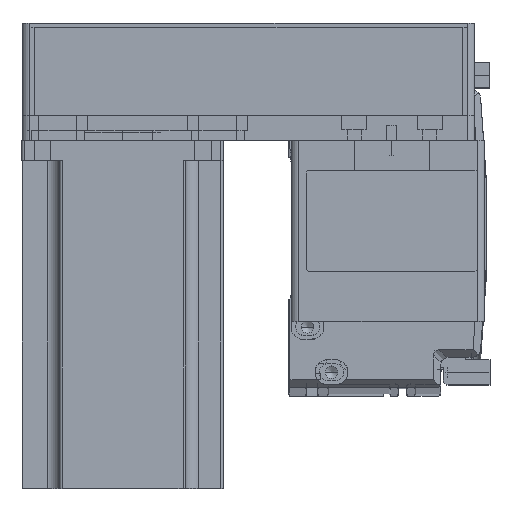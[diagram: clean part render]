
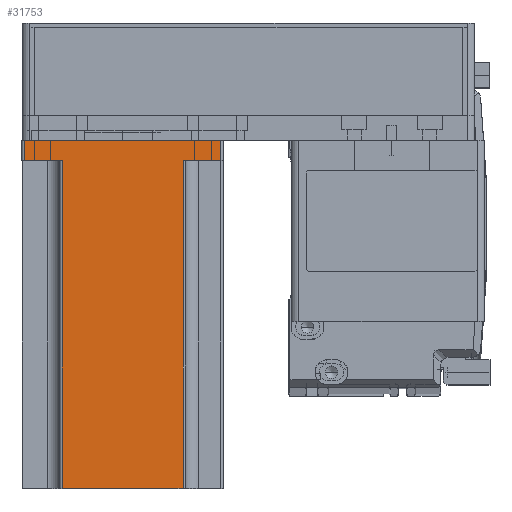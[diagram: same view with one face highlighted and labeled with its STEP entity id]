
A CAD part, top view. The second image highlights one B-rep face of the part: STEP entity #31753.
In plain terms, the highlighted planar face has unit normal (0, 0, 1) as drawn and (0, 1, 0) by its records, which use the part's own axes.
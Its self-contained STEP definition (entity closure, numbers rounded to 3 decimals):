
#1068 = LINE ( 'NONE', #58299, #13555 ) ;
#3240 = EDGE_CURVE ( 'NONE', #7296, #41955, #14706, .T. ) ;
#3581 = CARTESIAN_POINT ( 'NONE',  ( 40., 40., 138.3 ) ) ;
#4250 = VERTEX_POINT ( 'NONE', #19794 ) ;
#5304 = VECTOR ( 'NONE', #43268, 1000. ) ;
#5899 = CARTESIAN_POINT ( 'NONE',  ( 39., 40., 0. ) ) ;
#7296 = VERTEX_POINT ( 'NONE', #53317 ) ;
#7681 = ORIENTED_EDGE ( 'NONE', *, *, #10654, .T. ) ;
#8090 = EDGE_LOOP ( 'NONE', ( #26029, #52172, #59564, #7681, #50791, #59069, #13780, #60873 ) ) ;
#8345 = DIRECTION ( 'NONE',  ( 1., 0., 0. ) ) ;
#10654 = EDGE_CURVE ( 'NONE', #4250, #49467, #1068, .T. ) ;
#11311 = VECTOR ( 'NONE', #37694, 1000. ) ;
#13555 = VECTOR ( 'NONE', #34759, 1000. ) ;
#13780 = ORIENTED_EDGE ( 'NONE', *, *, #19563, .T. ) ;
#14303 = LINE ( 'NONE', #47206, #11311 ) ;
#14706 = LINE ( 'NONE', #57084, #60383 ) ;
#17269 = CARTESIAN_POINT ( 'NONE',  ( -24., 40., 138.3 ) ) ;
#19563 = EDGE_CURVE ( 'NONE', #41955, #20776, #23525, .T. ) ;
#19794 = CARTESIAN_POINT ( 'NONE',  ( 24., 40., 138.3 ) ) ;
#20776 = VERTEX_POINT ( 'NONE', #22793 ) ;
#21619 = EDGE_CURVE ( 'NONE', #4250, #56383, #58516, .T. ) ;
#22793 = CARTESIAN_POINT ( 'NONE',  ( -39., 40., 0. ) ) ;
#23525 = LINE ( 'NONE', #56377, #58175 ) ;
#25728 = EDGE_CURVE ( 'NONE', #52893, #48184, #29370, .T. ) ;
#26029 = ORIENTED_EDGE ( 'NONE', *, *, #25728, .T. ) ;
#26265 = CARTESIAN_POINT ( 'NONE',  ( -39., 40., 138.3 ) ) ;
#28839 = DIRECTION ( 'NONE',  ( 0., 0., -1. ) ) ;
#29032 = CARTESIAN_POINT ( 'NONE',  ( -24., 40., 138.3 ) ) ;
#29370 = LINE ( 'NONE', #37306, #52971 ) ;
#31753 = ADVANCED_FACE ( 'NONE', ( #51089 ), #55095, .F. ) ;
#31993 = VECTOR ( 'NONE', #55071, 1000. ) ;
#34759 = DIRECTION ( 'NONE',  ( 0., 0., -1. ) ) ;
#35093 = EDGE_CURVE ( 'NONE', #7296, #49467, #14303, .T. ) ;
#35678 = CARTESIAN_POINT ( 'NONE',  ( -24., 40., 8. ) ) ;
#36216 = CARTESIAN_POINT ( 'NONE',  ( 40., 40., 138.3 ) ) ;
#36444 = DIRECTION ( 'NONE',  ( 0., -1., 0. ) ) ;
#37306 = CARTESIAN_POINT ( 'NONE',  ( -25., 40., 8. ) ) ;
#37694 = DIRECTION ( 'NONE',  ( -1., 0., 0. ) ) ;
#39199 = CARTESIAN_POINT ( 'NONE',  ( -39., 40., 8. ) ) ;
#40984 = CARTESIAN_POINT ( 'NONE',  ( 24., 40., 8. ) ) ;
#41169 = VECTOR ( 'NONE', #49981, 1000. ) ;
#41381 = LINE ( 'NONE', #29032, #5304 ) ;
#41955 = VERTEX_POINT ( 'NONE', #5899 ) ;
#42655 = LINE ( 'NONE', #26265, #41169 ) ;
#43268 = DIRECTION ( 'NONE',  ( 0., 0., 1. ) ) ;
#43588 = AXIS2_PLACEMENT_3D ( 'NONE', #3581, #36444, #8345 ) ;
#46802 = DIRECTION ( 'NONE',  ( 1., 0., 0. ) ) ;
#46871 = DIRECTION ( 'NONE',  ( -1., 0., 0. ) ) ;
#47206 = CARTESIAN_POINT ( 'NONE',  ( 25., 40., 8. ) ) ;
#48184 = VERTEX_POINT ( 'NONE', #35678 ) ;
#49467 = VERTEX_POINT ( 'NONE', #40984 ) ;
#49981 = DIRECTION ( 'NONE',  ( 0., 0., 1. ) ) ;
#50791 = ORIENTED_EDGE ( 'NONE', *, *, #35093, .F. ) ;
#51089 = FACE_OUTER_BOUND ( 'NONE', #8090, .T. ) ;
#52172 = ORIENTED_EDGE ( 'NONE', *, *, #57712, .T. ) ;
#52893 = VERTEX_POINT ( 'NONE', #39199 ) ;
#52971 = VECTOR ( 'NONE', #46802, 1000. ) ;
#53317 = CARTESIAN_POINT ( 'NONE',  ( 39., 40., 8. ) ) ;
#53979 = EDGE_CURVE ( 'NONE', #20776, #52893, #42655, .T. ) ;
#55071 = DIRECTION ( 'NONE',  ( -1., 0., 0. ) ) ;
#55095 = PLANE ( 'NONE',  #43588 ) ;
#56377 = CARTESIAN_POINT ( 'NONE',  ( 40., 40., 0. ) ) ;
#56383 = VERTEX_POINT ( 'NONE', #17269 ) ;
#57084 = CARTESIAN_POINT ( 'NONE',  ( 39., 40., 138.3 ) ) ;
#57712 = EDGE_CURVE ( 'NONE', #48184, #56383, #41381, .T. ) ;
#58175 = VECTOR ( 'NONE', #46871, 1000. ) ;
#58299 = CARTESIAN_POINT ( 'NONE',  ( 24., 40., 138.3 ) ) ;
#58516 = LINE ( 'NONE', #36216, #31993 ) ;
#59069 = ORIENTED_EDGE ( 'NONE', *, *, #3240, .T. ) ;
#59564 = ORIENTED_EDGE ( 'NONE', *, *, #21619, .F. ) ;
#60383 = VECTOR ( 'NONE', #28839, 1000. ) ;
#60873 = ORIENTED_EDGE ( 'NONE', *, *, #53979, .T. ) ;
